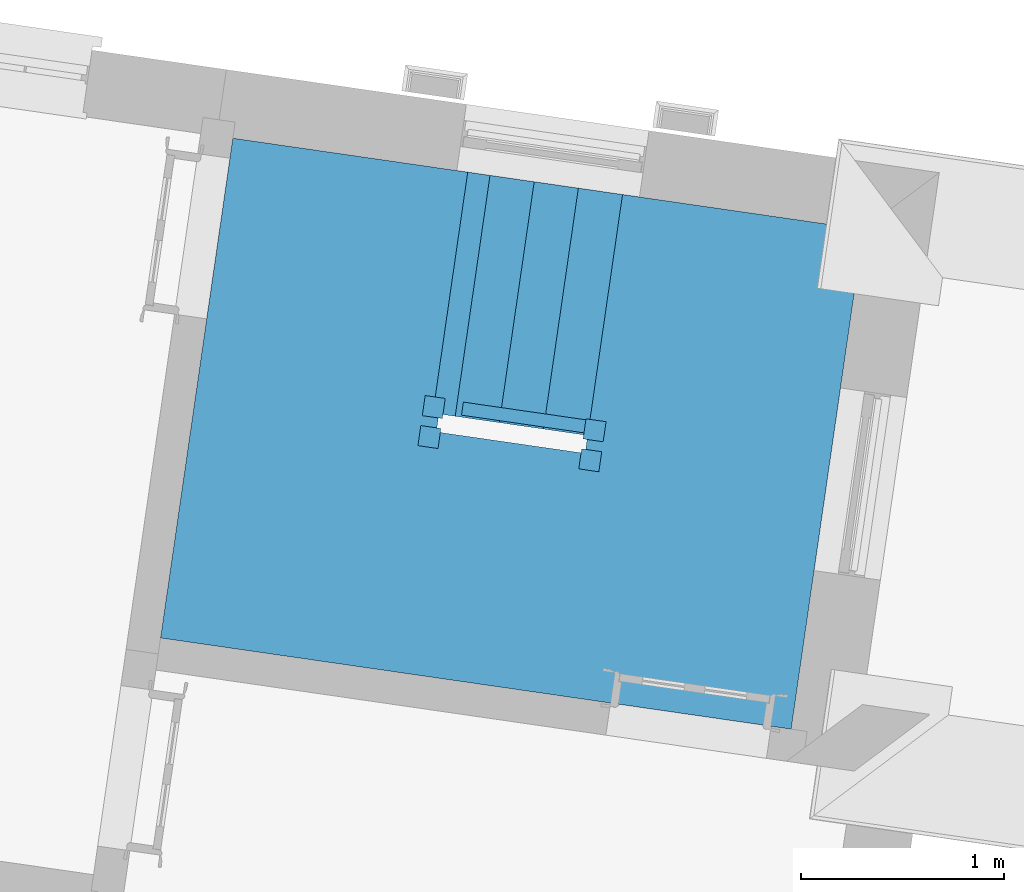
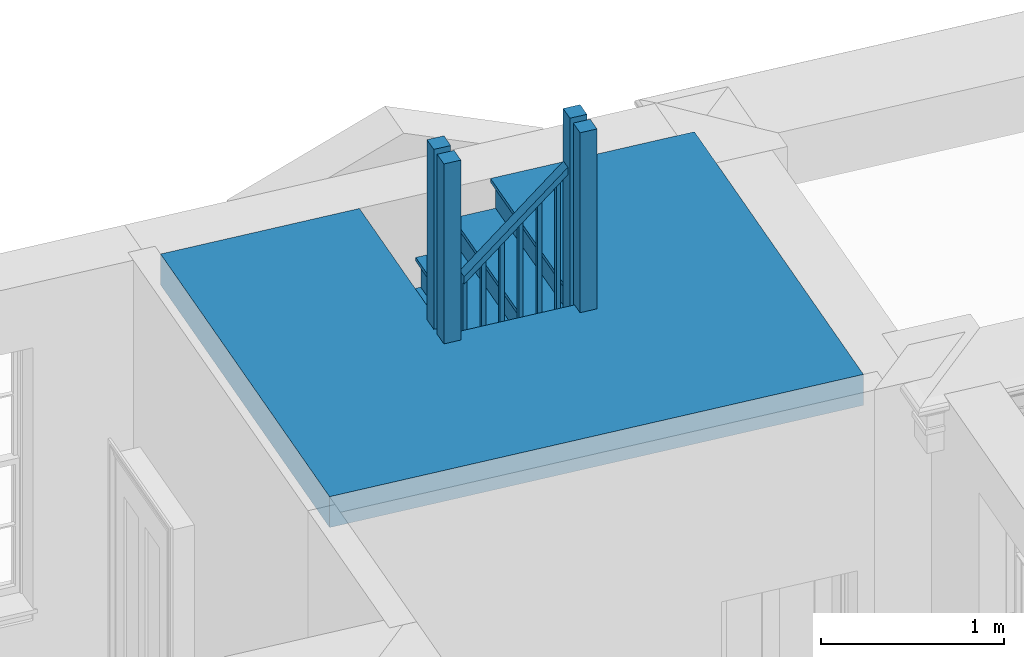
# One storey, part 7 of 7: 1 stair.
"""IFC4 building model written with IfcOpenShell, lengths in metres."""

from ifc_helpers import new_model, si_unit, frame, origin, origin_with_axes, place, context, subcontext, project, spatial, faceted_brep, element, save


model = new_model("IFC4")

# Units and contexts
model_context = context("Model", 3, world=origin_with_axes())
body_context = subcontext(model_context, "Body", "Model", "MODEL_VIEW")
ifc_project = project(units=[si_unit("PLANEANGLEUNIT", "RADIAN"), si_unit("MASSUNIT", "GRAM", prefix="KILO"), si_unit("FORCEUNIT", "NEWTON", prefix="KILO"), si_unit("LENGTHUNIT", "METRE"), si_unit("AREAUNIT", "SQUARE_METRE"), si_unit("VOLUMEUNIT", "CUBIC_METRE")], contexts=[model_context, model_context])

# Sites, building, storey
site_1_placement = place(None, origin_with_axes())
site_1 = spatial("IfcSite", under=ifc_project, at=site_1_placement, Name="Tamar")
site_2_placement = place(site_1_placement, origin_with_axes())
site_2 = spatial("IfcSite", under=site_1, at=site_2_placement, Name="Site plot-30", CompositionType="ELEMENT")
building_placement = place(None, origin_with_axes())
building = spatial("IfcBuilding", under=site_2, at=building_placement, Name="Building plot-30", CompositionType="ELEMENT")
storey_placement = place(None, frame((0.0, 0.0, 25.0), z_axis=(0.0, 0.0, 1.0), x_axis=(1.0, 0.0, 0.0)))
storey = spatial("IfcBuildingStorey", under=building, at=storey_placement, Name="plot-30 0", CompositionType="ELEMENT", Elevation=25.0)

# Stair
stair_placement = place(None, origin())
element("IfcStair", 1, at=stair_placement, inside=storey, Name="Stair", PredefinedType="NOTDEFINED", context=body_context, shape_type="Brep", body=[
    faceted_brep([(287.441554, 262.085451, 28.3), (286.283599, 262.252901, 28.3), (286.262217, 262.105042, 28.3), (287.420172, 261.937593, 28.3), (287.420172, 261.937593, 28.09375), (286.262217, 262.105042, 28.09375), (286.283599, 262.252901, 28.09375), (287.441554, 262.085451, 28.09375)], [[[0, 1, 2, 3]], [[4, 5, 6, 7]], [[7, 6, 1, 0]], [[6, 5, 2, 1]], [[5, 4, 3, 2]], [[4, 7, 0, 3]]]),
    faceted_brep([(287.449864, 261.933299, 28.275), (287.449864, 261.933299, 28.3), (287.420172, 261.937593, 28.275), (287.471245, 262.081158, 28.3), (287.471245, 262.081158, 28.275), (287.441554, 262.085451, 28.275), (287.420172, 261.937593, 28.3), (287.441554, 262.085451, 28.3)], [[[0, 1, 2]], [[3, 4, 5]], [[2, 1, 6]], [[3, 5, 7]], [[6, 1, 3, 7]], [[2, 6, 7, 5]], [[0, 2, 5, 4]], [[1, 0, 4, 3]]]),
    faceted_brep([(287.462502, 261.880951, 29.5), (287.476814, 261.979922, 29.5), (287.377843, 261.994234, 29.5), (287.363531, 261.895263, 29.5), (287.363531, 261.895263, 28.3), (287.377843, 261.994234, 28.3), (287.476814, 261.979922, 28.3), (287.462502, 261.880951, 28.3)], [[[0, 1, 2, 3]], [[4, 5, 6, 7]], [[7, 6, 1, 0]], [[6, 5, 2, 1]], [[5, 4, 3, 2]], [[4, 7, 0, 3]]]),
    faceted_brep([(287.420172, 261.937593, 28.3), (286.262217, 262.105042, 28.3), (286.094768, 260.947087, 28.3), (287.252723, 260.779637, 28.3), (287.252723, 260.779637, 28.09375), (286.094768, 260.947087, 28.09375), (286.262217, 262.105042, 28.09375), (287.420172, 261.937593, 28.09375)], [[[0, 1, 2, 3]], [[4, 5, 6, 7]], [[7, 6, 1, 0]], [[6, 5, 2, 1]], [[5, 4, 3, 2]], [[4, 7, 0, 3]]]),
    faceted_brep([(287.282414, 260.775344, 28.275), (287.282414, 260.775344, 28.3), (287.252723, 260.779637, 28.275), (287.449864, 261.933299, 28.3), (287.449864, 261.933299, 28.275), (287.420172, 261.937593, 28.275), (287.252723, 260.779637, 28.3), (287.420172, 261.937593, 28.3)], [[[0, 1, 2]], [[3, 4, 5]], [[2, 1, 6]], [[3, 5, 7]], [[6, 1, 3, 7]], [[2, 6, 7, 5]], [[0, 2, 5, 4]], [[1, 0, 4, 3]]]),
    faceted_brep([(287.462502, 261.880951, 28.3), (287.476814, 261.979922, 28.3), (287.377843, 261.994234, 28.3), (287.363531, 261.895263, 28.3), (287.363531, 261.895263, 27.8), (287.377843, 261.994234, 27.8), (287.476814, 261.979922, 27.8), (287.462502, 261.880951, 27.8)], [[[0, 1, 2, 3]], [[4, 5, 6, 7]], [[7, 6, 1, 0]], [[6, 5, 2, 1]], [[5, 4, 3, 2]], [[4, 7, 0, 3]]]),
    faceted_brep([(287.420172, 261.937593, 28.3), (287.252723, 260.779637, 28.3), (288.045494, 260.664996, 28.3), (288.212944, 261.822952, 28.3), (288.212944, 261.822952, 28.09375), (288.045494, 260.664996, 28.09375), (287.252723, 260.779637, 28.09375), (287.420172, 261.937593, 28.09375)], [[[0, 1, 2, 3]], [[4, 5, 6, 7]], [[7, 6, 1, 0]], [[6, 5, 2, 1]], [[5, 4, 3, 2]], [[4, 7, 0, 3]]]),
    faceted_brep([(288.212944, 261.822952, 28.275), (288.217237, 261.852643, 28.275), (288.212944, 261.822952, 28.3), (287.424466, 261.967284, 28.275), (287.420172, 261.937593, 28.275), (287.420172, 261.937593, 28.3), (288.217237, 261.852643, 28.3), (287.424466, 261.967284, 28.3)], [[[0, 1, 2]], [[3, 4, 5]], [[1, 6, 2]], [[7, 3, 5]], [[2, 6, 7, 5]], [[0, 2, 5, 4]], [[1, 0, 4, 3]], [[6, 1, 3, 7]]]),
    faceted_brep([(288.269585, 261.865281, 29.5), (288.170614, 261.879593, 29.5), (288.156302, 261.780622, 29.5), (288.255273, 261.76631, 29.5), (288.255273, 261.76631, 28.3), (288.156302, 261.780622, 28.3), (288.170614, 261.879593, 28.3), (288.269585, 261.865281, 28.3)], [[[0, 1, 2, 3]], [[4, 5, 6, 7]], [[7, 6, 1, 0]], [[6, 5, 2, 1]], [[5, 4, 3, 2]], [[4, 7, 0, 3]]]),
    faceted_brep([(288.212944, 261.822952, 28.3), (288.045494, 260.664996, 28.3), (289.20345, 260.497547, 28.3), (289.370899, 261.655502, 28.3), (289.370899, 261.655502, 28.09375), (289.20345, 260.497547, 28.09375), (288.045494, 260.664996, 28.09375), (288.212944, 261.822952, 28.09375)], [[[0, 1, 2, 3]], [[4, 5, 6, 7]], [[7, 6, 1, 0]], [[6, 5, 2, 1]], [[5, 4, 3, 2]], [[4, 7, 0, 3]]]),
    faceted_brep([(289.375193, 261.685193, 28.275), (289.375193, 261.685193, 28.3), (289.370899, 261.655502, 28.275), (288.217237, 261.852643, 28.3), (288.217237, 261.852643, 28.275), (288.212944, 261.822952, 28.275), (289.370899, 261.655502, 28.3), (288.212944, 261.822952, 28.3)], [[[0, 1, 2]], [[3, 4, 5]], [[2, 1, 6]], [[3, 5, 7]], [[6, 1, 3, 7]], [[2, 6, 7, 5]], [[0, 2, 5, 4]], [[1, 0, 4, 3]]]),
    faceted_brep([(288.269585, 261.865281, 28.3), (288.170614, 261.879593, 28.3), (288.156302, 261.780622, 28.3), (288.255273, 261.76631, 28.3), (288.255273, 261.76631, 27.8), (288.156302, 261.780622, 27.8), (288.170614, 261.879593, 27.8), (288.269585, 261.865281, 27.8)], [[[0, 1, 2, 3]], [[4, 5, 6, 7]], [[7, 6, 1, 0]], [[6, 5, 2, 1]], [[5, 4, 3, 2]], [[4, 7, 0, 3]]]),
    faceted_brep([(288.212944, 261.822952, 28.3), (289.370899, 261.655502, 28.3), (289.392281, 261.803361, 28.3), (288.234325, 261.970811, 28.3), (288.234325, 261.970811, 28.09375), (289.392281, 261.803361, 28.09375), (289.370899, 261.655502, 28.09375), (288.212944, 261.822952, 28.09375)], [[[0, 1, 2, 3]], [[4, 5, 6, 7]], [[7, 6, 1, 0]], [[6, 5, 2, 1]], [[5, 4, 3, 2]], [[4, 7, 0, 3]]]),
    faceted_brep([(288.234325, 261.970811, 28.275), (288.204634, 261.975104, 28.275), (288.234325, 261.970811, 28.3), (288.183253, 261.827245, 28.275), (288.212944, 261.822952, 28.275), (288.212944, 261.822952, 28.3), (288.204634, 261.975104, 28.3), (288.183253, 261.827245, 28.3)], [[[0, 1, 2]], [[3, 4, 5]], [[1, 6, 2]], [[7, 3, 5]], [[2, 6, 7, 5]], [[0, 2, 5, 4]], [[1, 0, 4, 3]], [[6, 1, 3, 7]]]),
    faceted_brep([(288.191996, 262.027452, 29.5), (288.177684, 261.928481, 29.5), (288.276655, 261.914169, 29.5), (288.290966, 262.01314, 29.5), (288.290966, 262.01314, 28.3), (288.276655, 261.914169, 28.3), (288.177684, 261.928481, 28.3), (288.191996, 262.027452, 28.3)], [[[0, 1, 2, 3]], [[4, 5, 6, 7]], [[7, 6, 1, 0]], [[6, 5, 2, 1]], [[5, 4, 3, 2]], [[4, 7, 0, 3]]]),
    faceted_brep([(288.234325, 261.970811, 28.3), (289.392281, 261.803361, 28.3), (289.55973, 262.961316, 28.3), (288.401775, 263.128766, 28.3), (288.401775, 263.128766, 28.09375), (289.55973, 262.961316, 28.09375), (289.392281, 261.803361, 28.09375), (288.234325, 261.970811, 28.09375)], [[[0, 1, 2, 3]], [[4, 5, 6, 7]], [[7, 6, 1, 0]], [[6, 5, 2, 1]], [[5, 4, 3, 2]], [[4, 7, 0, 3]]]),
    faceted_brep([(288.372084, 263.133059, 28.275), (288.372084, 263.133059, 28.3), (288.401775, 263.128766, 28.275), (288.204634, 261.975104, 28.3), (288.204634, 261.975104, 28.275), (288.234325, 261.970811, 28.275), (288.401775, 263.128766, 28.3), (288.234325, 261.970811, 28.3)], [[[0, 1, 2]], [[3, 4, 5]], [[2, 1, 6]], [[3, 5, 7]], [[6, 1, 3, 7]], [[2, 6, 7, 5]], [[0, 2, 5, 4]], [[1, 0, 4, 3]]]),
    faceted_brep([(288.191996, 262.027452, 28.3), (288.177684, 261.928481, 28.3), (288.276655, 261.914169, 28.3), (288.290966, 262.01314, 28.3), (288.290966, 262.01314, 27.8), (288.276655, 261.914169, 27.8), (288.177684, 261.928481, 27.8), (288.191996, 262.027452, 27.8)], [[[0, 1, 2, 3]], [[4, 5, 6, 7]], [[7, 6, 1, 0]], [[6, 5, 2, 1]], [[5, 4, 3, 2]], [[4, 7, 0, 3]]]),
    faceted_brep([(288.234325, 261.970811, 28.09375), (288.401775, 263.128766, 28.09375), (288.184039, 263.160252, 28.09375), (288.01659, 262.002297, 28.09375), (288.01659, 262.002297, 27.68125), (288.184039, 263.160252, 27.68125), (288.401775, 263.128766, 27.8875), (288.234325, 261.970811, 27.8875)], [[[0, 1, 2, 3]], [[4, 5, 6, 7]], [[7, 6, 1, 0]], [[1, 6, 5, 2]], [[5, 4, 3, 2]], [[3, 4, 7, 0]]]),
    faceted_brep([(288.154348, 263.164546, 28.06875), (288.154348, 263.164546, 28.09375), (288.184039, 263.160252, 28.06875), (288.431466, 263.124472, 28.09375), (288.431466, 263.124472, 28.06875), (288.401775, 263.128766, 28.06875), (288.184039, 263.160252, 28.09375), (288.401775, 263.128766, 28.09375), (287.982605, 261.976899, 28.09375), (288.01659, 262.002297, 28.09375), (288.01659, 262.002297, 28.06875), (287.982605, 261.976899, 28.06875), (288.259723, 261.936826, 28.09375), (288.234325, 261.970811, 28.09375), (288.234325, 261.970811, 28.06875), (288.259723, 261.936826, 28.06875)], [[[0, 1, 2]], [[3, 4, 5]], [[2, 1, 6]], [[3, 5, 7]], [[6, 1, 8, 9]], [[2, 6, 9, 10]], [[0, 2, 10, 11]], [[1, 0, 11, 8]], [[9, 8, 12, 13]], [[10, 9, 13, 14]], [[11, 10, 14, 15]], [[8, 11, 15, 12]], [[13, 12, 3, 7]], [[14, 13, 7, 5]], [[15, 14, 5, 4]], [[12, 15, 4, 3]]]),
    faceted_brep([(288.01659, 262.002297, 28.99375), (288.041333, 261.998719, 28.99375), (288.044911, 262.023461, 28.99375), (288.020168, 262.027039, 28.99375), (288.020168, 262.027039, 28.09375), (288.044911, 262.023461, 28.09375), (288.041333, 261.998719, 28.09375), (288.01659, 262.002297, 28.09375)], [[[0, 1, 2, 3]], [[4, 5, 6, 7]], [[7, 6, 1, 0]], [[6, 5, 2, 1]], [[5, 4, 3, 2]], [[4, 7, 0, 3]]]),
    faceted_brep([(288.125458, 261.986554, 29.096875), (288.1502, 261.982976, 29.096875), (288.153778, 262.007718, 29.096875), (288.129036, 262.011296, 29.096875), (288.129036, 262.011296, 28.09375), (288.153778, 262.007718, 28.09375), (288.1502, 261.982976, 28.09375), (288.125458, 261.986554, 28.09375)], [[[0, 1, 2, 3]], [[4, 5, 6, 7]], [[7, 6, 1, 0]], [[6, 5, 2, 1]], [[5, 4, 3, 2]], [[4, 7, 0, 3]]]),
    faceted_brep([(288.02303, 262.046833, 28.94375), (288.013728, 261.982503, 28.94375), (288.013728, 261.982503, 28.99375), (288.02303, 262.046833, 28.99375), (288.231463, 261.951016, 29.15), (288.240766, 262.015347, 29.15), (288.240766, 262.015347, 29.2), (288.231463, 261.951016, 29.2)], [[[0, 1, 2, 3]], [[4, 5, 6, 7]], [[0, 5, 4, 1]], [[3, 2, 7, 6]], [[0, 3, 6, 5]], [[2, 1, 4, 7]]]),
    faceted_brep([(288.01659, 262.002297, 27.8875), (288.184039, 263.160252, 27.8875), (287.966304, 263.191738, 27.8875), (287.798855, 262.033783, 27.8875), (287.798855, 262.033783, 27.475), (287.966304, 263.191738, 27.475), (288.184039, 263.160252, 27.68125), (288.01659, 262.002297, 27.68125)], [[[0, 1, 2, 3]], [[4, 5, 6, 7]], [[7, 6, 1, 0]], [[1, 6, 5, 2]], [[5, 4, 3, 2]], [[3, 4, 7, 0]]]),
    faceted_brep([(287.936613, 263.196032, 27.8625), (287.936613, 263.196032, 27.8875), (287.966304, 263.191738, 27.8625), (288.213731, 263.155959, 27.8875), (288.213731, 263.155959, 27.8625), (288.184039, 263.160252, 27.8625), (287.966304, 263.191738, 27.8875), (288.184039, 263.160252, 27.8875), (287.76487, 262.008385, 27.8875), (287.798855, 262.033783, 27.8875), (287.798855, 262.033783, 27.8625), (287.76487, 262.008385, 27.8625), (288.041988, 261.968312, 27.8875), (288.01659, 262.002297, 27.8875), (288.01659, 262.002297, 27.8625), (288.041988, 261.968312, 27.8625)], [[[0, 1, 2]], [[3, 4, 5]], [[2, 1, 6]], [[3, 5, 7]], [[6, 1, 8, 9]], [[2, 6, 9, 10]], [[0, 2, 10, 11]], [[1, 0, 11, 8]], [[9, 8, 12, 13]], [[10, 9, 13, 14]], [[11, 10, 14, 15]], [[8, 11, 15, 12]], [[13, 12, 3, 7]], [[14, 13, 7, 5]], [[15, 14, 5, 4]], [[12, 15, 4, 3]]]),
    faceted_brep([(287.798855, 262.033783, 28.7875), (287.823597, 262.030205, 28.7875), (287.827175, 262.054948, 28.7875), (287.802433, 262.058526, 28.7875), (287.802433, 262.058526, 27.8875), (287.827175, 262.054948, 27.8875), (287.823597, 262.030205, 27.8875), (287.798855, 262.033783, 27.8875)], [[[0, 1, 2, 3]], [[4, 5, 6, 7]], [[7, 6, 1, 0]], [[6, 5, 2, 1]], [[5, 4, 3, 2]], [[4, 7, 0, 3]]]),
    faceted_brep([(287.907722, 262.01804, 28.890625), (287.932465, 262.014462, 28.890625), (287.936043, 262.039204, 28.890625), (287.9113, 262.042782, 28.890625), (287.9113, 262.042782, 27.8875), (287.936043, 262.039204, 27.8875), (287.932465, 262.014462, 27.8875), (287.907722, 262.01804, 27.8875)], [[[0, 1, 2, 3]], [[4, 5, 6, 7]], [[7, 6, 1, 0]], [[6, 5, 2, 1]], [[5, 4, 3, 2]], [[4, 7, 0, 3]]]),
    faceted_brep([(287.805295, 262.07832, 28.7375), (287.795992, 262.013989, 28.7375), (287.795992, 262.013989, 28.7875), (287.805295, 262.07832, 28.7875), (288.013728, 261.982503, 28.94375), (288.02303, 262.046833, 28.94375), (288.02303, 262.046833, 28.99375), (288.013728, 261.982503, 28.99375)], [[[0, 1, 2, 3]], [[4, 5, 6, 7]], [[0, 5, 4, 1]], [[3, 2, 7, 6]], [[0, 3, 6, 5]], [[2, 1, 4, 7]]]),
    faceted_brep([(287.798855, 262.033783, 27.68125), (287.966304, 263.191738, 27.68125), (287.748569, 263.223225, 27.68125), (287.58112, 262.065269, 27.68125), (287.58112, 262.065269, 27.26875), (287.748569, 263.223225, 27.26875), (287.966304, 263.191738, 27.475), (287.798855, 262.033783, 27.475)], [[[0, 1, 2, 3]], [[4, 5, 6, 7]], [[7, 6, 1, 0]], [[1, 6, 5, 2]], [[5, 4, 3, 2]], [[3, 4, 7, 0]]]),
    faceted_brep([(287.718878, 263.227518, 27.65625), (287.718878, 263.227518, 27.68125), (287.748569, 263.223225, 27.65625), (287.995995, 263.187445, 27.68125), (287.995995, 263.187445, 27.65625), (287.966304, 263.191738, 27.65625), (287.748569, 263.223225, 27.68125), (287.966304, 263.191738, 27.68125), (287.547135, 262.039872, 27.68125), (287.58112, 262.065269, 27.68125), (287.58112, 262.065269, 27.65625), (287.547135, 262.039872, 27.65625), (287.824252, 261.999798, 27.68125), (287.798855, 262.033783, 27.68125), (287.798855, 262.033783, 27.65625), (287.824252, 261.999798, 27.65625)], [[[0, 1, 2]], [[3, 4, 5]], [[2, 1, 6]], [[3, 5, 7]], [[6, 1, 8, 9]], [[2, 6, 9, 10]], [[0, 2, 10, 11]], [[1, 0, 11, 8]], [[9, 8, 12, 13]], [[10, 9, 13, 14]], [[11, 10, 14, 15]], [[8, 11, 15, 12]], [[13, 12, 3, 7]], [[14, 13, 7, 5]], [[15, 14, 5, 4]], [[12, 15, 4, 3]]]),
    faceted_brep([(287.58112, 262.065269, 28.58125), (287.605862, 262.061691, 28.58125), (287.60944, 262.086434, 28.58125), (287.584698, 262.090012, 28.58125), (287.584698, 262.090012, 27.68125), (287.60944, 262.086434, 27.68125), (287.605862, 262.061691, 27.68125), (287.58112, 262.065269, 27.68125)], [[[0, 1, 2, 3]], [[4, 5, 6, 7]], [[7, 6, 1, 0]], [[6, 5, 2, 1]], [[5, 4, 3, 2]], [[4, 7, 0, 3]]]),
    faceted_brep([(287.689987, 262.049526, 28.684375), (287.71473, 262.045948, 28.684375), (287.718308, 262.070691, 28.684375), (287.693565, 262.074269, 28.684375), (287.693565, 262.074269, 27.68125), (287.718308, 262.070691, 27.68125), (287.71473, 262.045948, 27.68125), (287.689987, 262.049526, 27.68125)], [[[0, 1, 2, 3]], [[4, 5, 6, 7]], [[7, 6, 1, 0]], [[6, 5, 2, 1]], [[5, 4, 3, 2]], [[4, 7, 0, 3]]]),
    faceted_brep([(287.58756, 262.109806, 28.53125), (287.578257, 262.045475, 28.53125), (287.578257, 262.045475, 28.58125), (287.58756, 262.109806, 28.58125), (287.795992, 262.013989, 28.7375), (287.805295, 262.07832, 28.7375), (287.805295, 262.07832, 28.7875), (287.795992, 262.013989, 28.7875)], [[[0, 1, 2, 3]], [[4, 5, 6, 7]], [[0, 5, 4, 1]], [[3, 2, 7, 6]], [[0, 3, 6, 5]], [[2, 1, 4, 7]]]),
    faceted_brep([(287.58112, 262.065269, 27.475), (287.748569, 263.223225, 27.475), (287.609003, 263.243407, 27.475), (287.441554, 262.085451, 27.475), (287.441554, 262.085451, 27.26875), (287.609003, 263.243407, 27.26875), (287.748569, 263.223225, 27.26875), (287.58112, 262.065269, 27.26875)], [[[0, 1, 2, 3]], [[4, 5, 6, 7]], [[7, 6, 1, 0]], [[6, 5, 2, 1]], [[5, 4, 3, 2]], [[4, 7, 0, 3]]]),
    faceted_brep([(287.441554, 262.085451, 27.45), (287.43726, 262.05576, 27.45), (287.441554, 262.085451, 27.475), (287.576826, 262.035578, 27.45), (287.58112, 262.065269, 27.45), (287.58112, 262.065269, 27.475), (287.43726, 262.05576, 27.475), (287.576826, 262.035578, 27.475)], [[[0, 1, 2]], [[3, 4, 5]], [[1, 6, 2]], [[7, 3, 5]], [[2, 6, 7, 5]], [[0, 2, 5, 4]], [[1, 0, 4, 3]], [[6, 1, 3, 7]]]),
    faceted_brep([(287.384913, 262.043122, 29.5), (287.483883, 262.02881, 29.5), (287.498195, 262.127781, 29.5), (287.399225, 262.142093, 29.5), (287.399225, 262.142093, 28.3), (287.498195, 262.127781, 28.3), (287.483883, 262.02881, 28.3), (287.384913, 262.043122, 28.3)], [[[0, 1, 2, 3]], [[4, 5, 6, 7]], [[7, 6, 1, 0]], [[6, 5, 2, 1]], [[5, 4, 3, 2]], [[4, 7, 0, 3]]]),
    faceted_brep([(287.441554, 262.085451, 28.3), (287.609003, 263.243407, 28.3), (286.451048, 263.410856, 28.3), (286.283599, 262.252901, 28.3), (286.283599, 262.252901, 28.09375), (286.451048, 263.410856, 28.09375), (287.609003, 263.243407, 28.09375), (287.441554, 262.085451, 28.09375)], [[[0, 1, 2, 3]], [[4, 5, 6, 7]], [[7, 6, 1, 0]], [[6, 5, 2, 1]], [[5, 4, 3, 2]], [[4, 7, 0, 3]]]),
    faceted_brep([(286.283599, 262.252901, 28.275), (286.279305, 262.22321, 28.275), (286.283599, 262.252901, 28.3), (287.43726, 262.05576, 28.275), (287.441554, 262.085451, 28.275), (287.441554, 262.085451, 28.3), (286.279305, 262.22321, 28.3), (287.43726, 262.05576, 28.3)], [[[0, 1, 2]], [[3, 4, 5]], [[1, 6, 2]], [[7, 3, 5]], [[2, 6, 7, 5]], [[0, 2, 5, 4]], [[1, 0, 4, 3]], [[6, 1, 3, 7]]]),
    faceted_brep([(287.384913, 262.043122, 28.3), (287.483883, 262.02881, 28.3), (287.498195, 262.127781, 28.3), (287.399225, 262.142093, 28.3), (287.399225, 262.142093, 27.8), (287.498195, 262.127781, 27.8), (287.483883, 262.02881, 27.8), (287.384913, 262.043122, 27.8)], [[[0, 1, 2, 3]], [[4, 5, 6, 7]], [[7, 6, 1, 0]], [[6, 5, 2, 1]], [[5, 4, 3, 2]], [[4, 7, 0, 3]]]),
])

save(model, "model.ifc")
